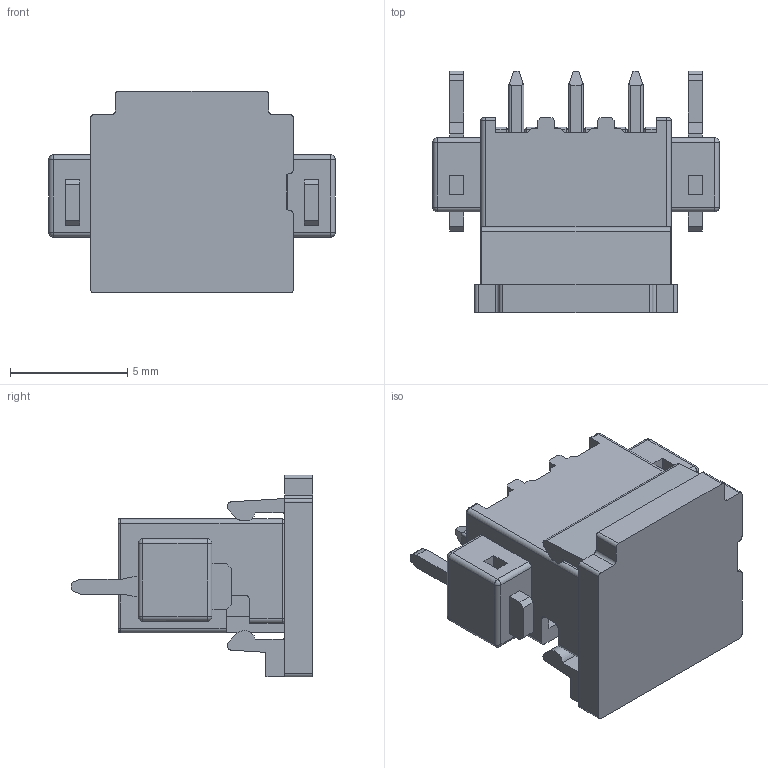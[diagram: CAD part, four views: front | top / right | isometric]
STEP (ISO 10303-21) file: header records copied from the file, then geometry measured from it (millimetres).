
FILE_DESCRIPTION((''),'2;1');
FILE_NAME('OQ254-3P','2022-06-09T',('renkang.li'),(''),'CREO PARAMETRIC BY PTC INC, 2016260','CREO PARAMETRIC BY PTC INC, 2016260','');
FILE_SCHEMA(('CONFIG_CONTROL_DESIGN'));
Length unit declared in the file: millimetre
Products named in the file (1): OQ254-3P
Bounding box: 12.2 x 10.3 x 8.6 mm (x, y, z)
Volume: 320.2 mm3; surface area: 832.9 mm2
Topology: 1 solids, 1 shells, 510 faces, 1433 edges, 888 vertices
Faces by surface type: plane 382, cylinder 94, cone 18, bspline 8, sphere 8
Entity records: 16216 total; most frequent: CARTESIAN_POINT 3220, ORIENTED_EDGE 2814, DIRECTION 2539, EDGE_CURVE 1407, VECTOR 1127, LINE 1127, VERTEX_POINT 888, AXIS2_PLACEMENT_3D 706
